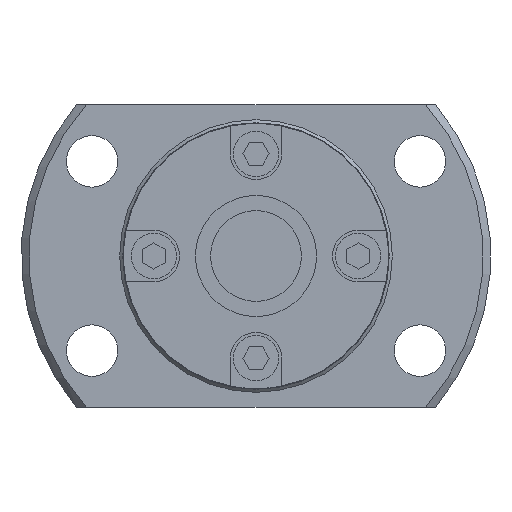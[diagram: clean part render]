
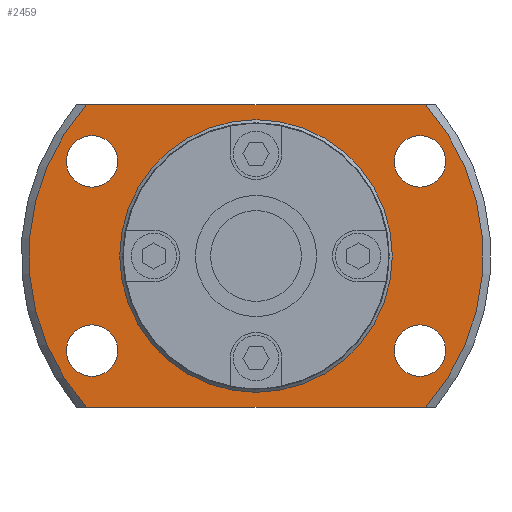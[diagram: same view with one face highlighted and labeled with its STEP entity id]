
A CAD part, left-side view. The second image highlights one B-rep face of the part: STEP entity #2459.
In plain terms, the highlighted planar face has unit normal (-1, 0, 0).
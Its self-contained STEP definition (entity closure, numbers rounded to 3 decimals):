
#135=LINE('',#3857,#361);
#136=LINE('',#3861,#362);
#361=VECTOR('',#3099,1000.);
#362=VECTOR('',#3102,1000.);
#683=ORIENTED_EDGE('',*,*,#1305,.F.);
#684=ORIENTED_EDGE('',*,*,#1306,.F.);
#685=ORIENTED_EDGE('',*,*,#1307,.F.);
#686=ORIENTED_EDGE('',*,*,#1308,.F.);
#687=ORIENTED_EDGE('',*,*,#1291,.F.);
#688=ORIENTED_EDGE('',*,*,#1309,.T.);
#689=ORIENTED_EDGE('',*,*,#1310,.F.);
#690=ORIENTED_EDGE('',*,*,#1311,.T.);
#691=ORIENTED_EDGE('',*,*,#1304,.T.);
#1291=EDGE_CURVE('',#1613,#1614,#1810,.T.);
#1304=EDGE_CURVE('',#1625,#1625,#1818,.T.);
#1305=EDGE_CURVE('',#1626,#1626,#1819,.F.);
#1306=EDGE_CURVE('',#1627,#1627,#1820,.F.);
#1307=EDGE_CURVE('',#1628,#1628,#1821,.F.);
#1308=EDGE_CURVE('',#1629,#1629,#1822,.F.);
#1309=EDGE_CURVE('',#1613,#1630,#135,.T.);
#1310=EDGE_CURVE('',#1631,#1630,#1823,.T.);
#1311=EDGE_CURVE('',#1631,#1614,#136,.T.);
#1613=VERTEX_POINT('',#3805);
#1614=VERTEX_POINT('',#3807);
#1625=VERTEX_POINT('',#3847);
#1626=VERTEX_POINT('',#3850);
#1627=VERTEX_POINT('',#3852);
#1628=VERTEX_POINT('',#3854);
#1629=VERTEX_POINT('',#3856);
#1630=VERTEX_POINT('',#3858);
#1631=VERTEX_POINT('',#3860);
#1810=CIRCLE('',#2675,15.);
#1818=CIRCLE('',#2690,8.85);
#1819=CIRCLE('',#2692,1.7);
#1820=CIRCLE('',#2693,1.7);
#1821=CIRCLE('',#2694,1.7);
#1822=CIRCLE('',#2695,1.7);
#1823=CIRCLE('',#2696,15.);
#1932=EDGE_LOOP('',(#683));
#1933=EDGE_LOOP('',(#684));
#1934=EDGE_LOOP('',(#685));
#1935=EDGE_LOOP('',(#686));
#1936=EDGE_LOOP('',(#687,#688,#689,#690));
#1937=EDGE_LOOP('',(#691));
#2154=FACE_BOUND('',#1932,.T.);
#2155=FACE_BOUND('',#1933,.T.);
#2156=FACE_BOUND('',#1934,.T.);
#2157=FACE_BOUND('',#1935,.T.);
#2158=FACE_BOUND('',#1936,.T.);
#2159=FACE_BOUND('',#1937,.T.);
#2331=PLANE('',#2691);
#2459=ADVANCED_FACE('',(#2154,#2155,#2156,#2157,#2158,#2159),#2331,.F.);
#2675=AXIS2_PLACEMENT_3D('',#3806,#3055,#3056);
#2690=AXIS2_PLACEMENT_3D('',#3846,#3087,#3088);
#2691=AXIS2_PLACEMENT_3D('',#3848,#3089,#3090);
#2692=AXIS2_PLACEMENT_3D('',#3849,#3091,#3092);
#2693=AXIS2_PLACEMENT_3D('',#3851,#3093,#3094);
#2694=AXIS2_PLACEMENT_3D('',#3853,#3095,#3096);
#2695=AXIS2_PLACEMENT_3D('',#3855,#3097,#3098);
#2696=AXIS2_PLACEMENT_3D('',#3859,#3100,#3101);
#3055=DIRECTION('',(1.,0.,0.));
#3056=DIRECTION('',(0.,0.,-1.));
#3087=DIRECTION('',(1.,0.,0.));
#3088=DIRECTION('',(0.,0.,-1.));
#3089=DIRECTION('',(1.,0.,0.));
#3090=DIRECTION('',(0.,0.,-1.));
#3091=DIRECTION('',(1.,0.,0.));
#3092=DIRECTION('',(0.,0.,-1.));
#3093=DIRECTION('',(1.,0.,0.));
#3094=DIRECTION('',(0.,0.,-1.));
#3095=DIRECTION('',(1.,0.,0.));
#3096=DIRECTION('',(0.,0.,-1.));
#3097=DIRECTION('',(1.,0.,0.));
#3098=DIRECTION('',(0.,0.,-1.));
#3099=DIRECTION('',(0.,-1.,0.));
#3100=DIRECTION('',(1.,0.,0.));
#3101=DIRECTION('',(0.,0.,-1.));
#3102=DIRECTION('',(0.,1.,0.));
#3805=CARTESIAN_POINT('',(14.,11.18,-10.));
#3806=CARTESIAN_POINT('',(14.,0.,0.));
#3807=CARTESIAN_POINT('',(14.,11.18,10.));
#3846=CARTESIAN_POINT('',(14.,0.,0.));
#3847=CARTESIAN_POINT('',(14.,0.,-8.85));
#3848=CARTESIAN_POINT('',(14.,8.85,0.));
#3849=CARTESIAN_POINT('',(14.,-10.825,-6.25));
#3850=CARTESIAN_POINT('',(14.,-10.825,-7.95));
#3851=CARTESIAN_POINT('',(14.,-10.825,6.25));
#3852=CARTESIAN_POINT('',(14.,-10.825,4.55));
#3853=CARTESIAN_POINT('',(14.,10.825,-6.25));
#3854=CARTESIAN_POINT('',(14.,10.825,-7.95));
#3855=CARTESIAN_POINT('',(14.,10.825,6.25));
#3856=CARTESIAN_POINT('',(14.,10.825,4.55));
#3857=CARTESIAN_POINT('',(14.,8.85,-10.));
#3858=CARTESIAN_POINT('',(14.,-11.18,-10.));
#3859=CARTESIAN_POINT('',(14.,0.,0.));
#3860=CARTESIAN_POINT('',(14.,-11.18,10.));
#3861=CARTESIAN_POINT('',(14.,8.85,10.));
